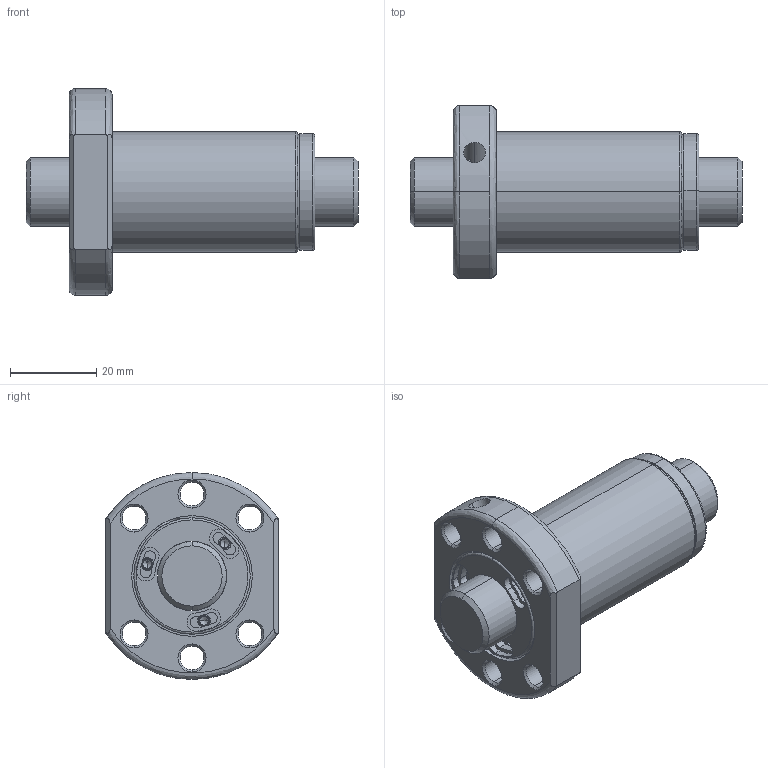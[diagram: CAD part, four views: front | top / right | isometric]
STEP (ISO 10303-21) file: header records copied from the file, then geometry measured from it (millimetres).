
FILE_DESCRIPTION (( 'STEP AP203' ), '1' );
FILE_NAME ('SFSR01620A1D-C.STEP', '2020-06-17T00:58:02', ( '' ), ( '' ), 'SwSTEP 2.0', 'SolidWorks 2013', '' );
FILE_SCHEMA (( 'CONFIG_CONTROL_DESIGN' ));
Length unit declared in the file: millimetre
Products named in the file (1): SFSR01620A1D-C
Bounding box: 77 x 40 x 48 mm (x, y, z)
Volume: 46092.9 mm3; surface area: 17676.4 mm2
Topology: 2 solids, 2 shells, 239 faces, 578 edges, 353 vertices
Faces by surface type: cylinder 121, plane 54, cone 52, bspline 12
Entity records: 7531 total; most frequent: CARTESIAN_POINT 1723, DIRECTION 1333, ORIENTED_EDGE 1132, AXIS2_PLACEMENT_3D 573, EDGE_CURVE 566, VERTEX_POINT 353, CIRCLE 345, EDGE_LOOP 279
